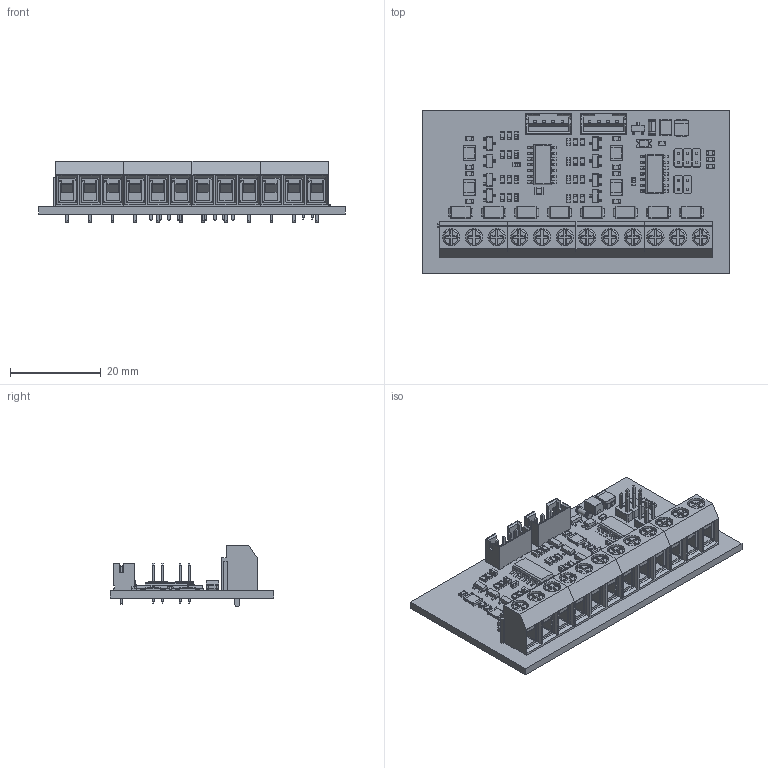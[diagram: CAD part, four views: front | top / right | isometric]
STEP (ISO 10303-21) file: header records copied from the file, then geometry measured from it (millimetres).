
FILE_DESCRIPTION(('Open CASCADE Model'),'2;1');
FILE_NAME('Open CASCADE Shape Model','2016-07-11T10:53:01',('Author'),( 'Open CASCADE'),'Open CASCADE STEP processor 6.2','Open CASCADE 6.2' ,'Unknown');
FILE_SCHEMA(('AUTOMOTIVE_DESIGN { 1 0 10303 214 1 1 1 1 }'));
Length unit declared in the file: millimetre
Products named in the file (92): PCB; Board; U2; MCP3424-ESL; U1; MCP6004-ISL; R32; MCR03; R31; R30; R29; R28; R27; R26; R25; R24; R23; R22; R21; R20; R19; R18; R17; R16; R15; R14; R13; R12; R11; R10; R9; R8; R7; R6; R5; R4; MCR25; R3; R2; R1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
Assembly tree (152 placements, depth 4):
  PCB
    Board
    U2
      MCP3424-ESL
    U1
      MCP6004-ISL
    R32
      MCR03
    R31
      MCR03
    R30
      MCR03
    R29
      MCR03
    R28
      MCR03
    R27
      MCR03
    R26
      MCR03
    R25
      MCR03
    R24
      MCR03
    R23
      MCR03
    R22
      MCR03
    R21
      MCR03
    R20
      MCR03
    R19
      MCR03
    R18
      MCR03
    R17
      MCR03
    R16
      MCR03
    R15
      MCR03
    R14
      MCR03
    R13
      MCR03
    R12
      MCR03
    R11
      MCR03
    R10
      MCR03
    R9
      MCR03
    R8
      MCR03
    R7
      MCR03
    R6
      MCR03
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Bounding box: 67.5 x 36 x 13.6 mm (x, y, z)
Volume: 8321.1 mm3; surface area: 14318 mm2
Topology: 86 solids, 86 shells, 7513 faces, 18540 edges, 10976 vertices
Faces by surface type: plane 3813, cylinder 2572, torus 692, sphere 352, bspline 84
Entity records: 217926 total; most frequent: CARTESIAN_POINT 92964, DIRECTION 18079, ORIENTED_EDGE 11392, PCURVE 11392, DEFINITIONAL_REPRESENTATION 11392, LINE 8670, VECTOR 8670, EDGE_CURVE 5696
